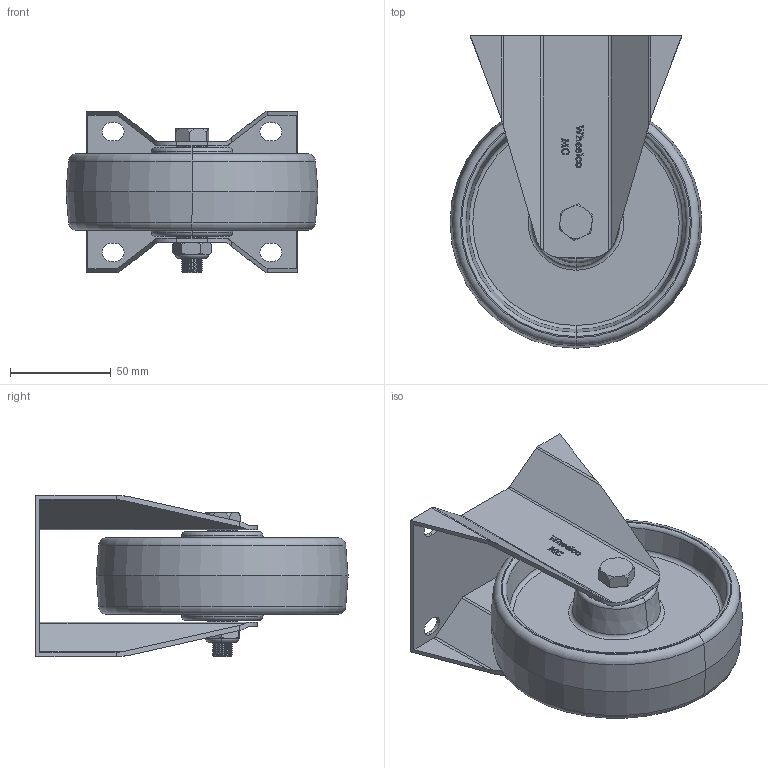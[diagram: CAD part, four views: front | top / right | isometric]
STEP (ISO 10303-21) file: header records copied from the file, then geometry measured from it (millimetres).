
FILE_DESCRIPTION (( 'STEP AP214' ), '1' );
FILE_NAME ('MCN125-F.step', '2023-11-29T20:24:23', ( '' ), ( '' ), 'SwSTEP 2.0', 'SolidWorks 2022', '' );
FILE_SCHEMA (( 'AUTOMOTIVE_DESIGN' ));
Length unit declared in the file: millimetre
Products named in the file (6): M10X65 STAINLESS BOLT; M10 Nyloc SS; MC125-F; SP15-10-47; MCN125; MCN125-F
Assembly tree (5 placements, depth 2):
  MCN125-F
    MC125-F
    M10 Nyloc SS
    M10X65 STAINLESS BOLT
    SP15-10-47
    MCN125
Bounding box: 125 x 155 x 80 mm (x, y, z)
Volume: 276452.2 mm3; surface area: 105083.3 mm2
Topology: 5 solids, 5 shells, 425 faces, 1152 edges, 756 vertices
Faces by surface type: plane 178, cylinder 119, bspline 69, cone 33, torus 26
Entity records: 23457 total; most frequent: CARTESIAN_POINT 12271, ORIENTED_EDGE 2304, DIRECTION 1705, EDGE_CURVE 1152, VERTEX_POINT 756, LINE 629, VECTOR 629, AXIS2_PLACEMENT_3D 538
